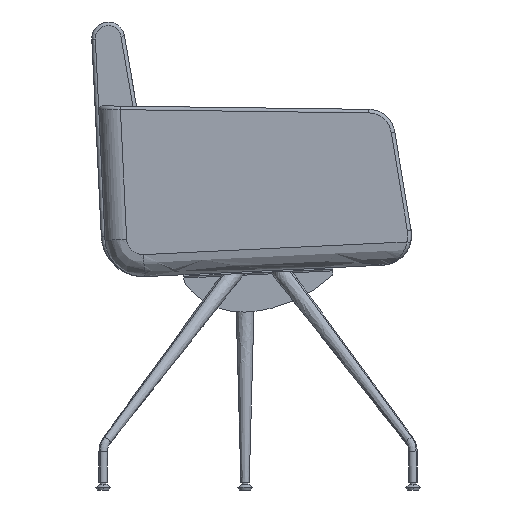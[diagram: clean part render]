
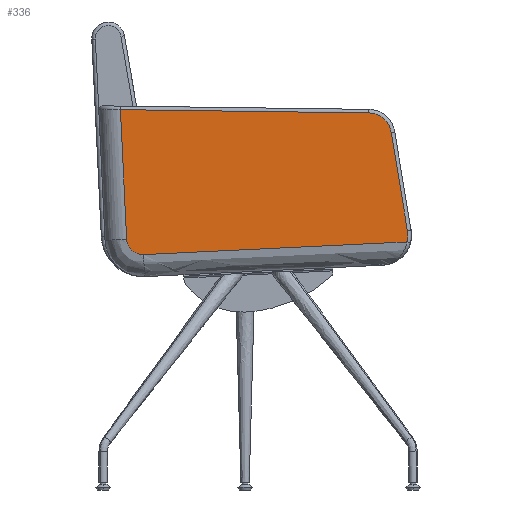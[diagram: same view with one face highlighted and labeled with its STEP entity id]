
A CAD part, left-side view. The second image highlights one B-rep face of the part: STEP entity #336.
In plain terms, the highlighted planar face has unit normal (-1, 0.019, 0).
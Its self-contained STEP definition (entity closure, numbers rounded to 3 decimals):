
#336=ADVANCED_FACE('',(#670),#4486,.T.);
#670=FACE_OUTER_BOUND('',#1007,.T.);
#1007=EDGE_LOOP('',(#2202,#2203,#2204,#2205,#2206,#2207,#2208));
#2202=ORIENTED_EDGE('',*,*,#3107,.T.);
#2203=ORIENTED_EDGE('',*,*,#3104,.T.);
#2204=ORIENTED_EDGE('',*,*,#3095,.T.);
#2205=ORIENTED_EDGE('',*,*,#3099,.T.);
#2206=ORIENTED_EDGE('',*,*,#3091,.T.);
#2207=ORIENTED_EDGE('',*,*,#3084,.F.);
#2208=ORIENTED_EDGE('',*,*,#3092,.F.);
#3084=EDGE_CURVE('',#4341,#4342,#3840,.T.);
#3091=EDGE_CURVE('',#4351,#4342,#3847,.T.);
#3092=EDGE_CURVE('',#4353,#4341,#3338,.T.);
#3095=EDGE_CURVE('',#4356,#4355,#3850,.T.);
#3099=EDGE_CURVE('',#4355,#4351,#3854,.T.);
#3104=EDGE_CURVE('',#4354,#4356,#3859,.T.);
#3107=EDGE_CURVE('',#4353,#4354,#3862,.T.);
#3338=B_SPLINE_CURVE_WITH_KNOTS('',1,(#10488,#10489),.UNSPECIFIED.,.F.,
 .F.,(2,2),(14.204,456.936),.UNSPECIFIED.);
#3840=(
BOUNDED_CURVE()
B_SPLINE_CURVE(3,(#10463,#10464,#10465,#10466,#10467,#10468),
 .UNSPECIFIED.,.F.,.F.)
B_SPLINE_CURVE_WITH_KNOTS((4,1,1,4),(0.574,16.302,
26.915,42.99),.UNSPECIFIED.)
CURVE()
GEOMETRIC_REPRESENTATION_ITEM()
RATIONAL_B_SPLINE_CURVE((1.,1.,1.,1.,1.,
1.))
REPRESENTATION_ITEM('')
);
#3847=(
BOUNDED_CURVE()
B_SPLINE_CURVE(1,(#10486,#10487),.UNSPECIFIED.,.F.,.F.)
B_SPLINE_CURVE_WITH_KNOTS((2,2),(8.235,225.966),
 .UNSPECIFIED.)
CURVE()
GEOMETRIC_REPRESENTATION_ITEM()
RATIONAL_B_SPLINE_CURVE((1.,1.))
REPRESENTATION_ITEM('')
);
#3850=(
BOUNDED_CURVE()
B_SPLINE_CURVE(3,(#10498,#10499,#10500,#10501,#10502),.UNSPECIFIED.,.F.,
 .F.)
B_SPLINE_CURVE_WITH_KNOTS((4,1,4),(0.019,27.333,54.402),
 .UNSPECIFIED.)
CURVE()
GEOMETRIC_REPRESENTATION_ITEM()
RATIONAL_B_SPLINE_CURVE((1.,1.,1.,1.,1.))
REPRESENTATION_ITEM('')
);
#3854=(
BOUNDED_CURVE()
B_SPLINE_CURVE(1,(#10511,#10512),.UNSPECIFIED.,.F.,.F.)
B_SPLINE_CURVE_WITH_KNOTS((2,2),(0.117,416.598),
 .UNSPECIFIED.)
CURVE()
GEOMETRIC_REPRESENTATION_ITEM()
RATIONAL_B_SPLINE_CURVE((1.,1.))
REPRESENTATION_ITEM('')
);
#3859=(
BOUNDED_CURVE()
B_SPLINE_CURVE(1,(#10532,#10533),.UNSPECIFIED.,.F.,.F.)
B_SPLINE_CURVE_WITH_KNOTS((2,2),(0.019,167.948),
 .UNSPECIFIED.)
CURVE()
GEOMETRIC_REPRESENTATION_ITEM()
RATIONAL_B_SPLINE_CURVE((1.,1.))
REPRESENTATION_ITEM('')
);
#3862=(
BOUNDED_CURVE()
B_SPLINE_CURVE(3,(#10541,#10542,#10543,#10544),.UNSPECIFIED.,.F.,.F.)
B_SPLINE_CURVE_WITH_KNOTS((4,4),(-1.65,16.592),
 .UNSPECIFIED.)
CURVE()
GEOMETRIC_REPRESENTATION_ITEM()
RATIONAL_B_SPLINE_CURVE((1.,1.,1.,1.))
REPRESENTATION_ITEM('')
);
#4341=VERTEX_POINT('',#10427);
#4342=VERTEX_POINT('',#10428);
#4351=VERTEX_POINT('',#10437);
#4353=VERTEX_POINT('',#10439);
#4354=VERTEX_POINT('',#10440);
#4355=VERTEX_POINT('',#10441);
#4356=VERTEX_POINT('',#10442);
#4486=PLANE('',#4900);
#4900=AXIS2_PLACEMENT_3D('',#10217,#4951,$);
#4951=DIRECTION('',(-1.,0.019,0.));
#10217=CARTESIAN_POINT('',(-1061.892,258.768,351.764));
#10427=CARTESIAN_POINT('',(-1063.189,192.279,394.941));
#10428=CARTESIAN_POINT('',(-1062.638,220.544,420.614));
#10437=CARTESIAN_POINT('',(-1062.434,231.,638.094));
#10439=CARTESIAN_POINT('',(-1071.808,-249.859,416.198));
#10440=CARTESIAN_POINT('',(-1071.824,-250.654,434.293));
#10441=CARTESIAN_POINT('',(-1070.551,-185.366,632.636));
#10442=CARTESIAN_POINT('',(-1071.291,-223.335,599.984));
#10463=CARTESIAN_POINT('',(-1063.189,192.279,394.941));
#10464=CARTESIAN_POINT('',(-1063.086,197.519,394.673));
#10465=CARTESIAN_POINT('',(-1062.914,206.388,396.904));
#10466=CARTESIAN_POINT('',(-1062.704,217.128,406.529));
#10467=CARTESIAN_POINT('',(-1062.642,220.304,415.256));
#10468=CARTESIAN_POINT('',(-1062.638,220.544,420.614));
#10486=CARTESIAN_POINT('',(-1062.434,231.,638.094));
#10487=CARTESIAN_POINT('',(-1062.638,220.544,420.614));
#10488=CARTESIAN_POINT('',(-1071.808,-249.859,416.198));
#10489=CARTESIAN_POINT('',(-1063.189,192.279,394.941));
#10498=CARTESIAN_POINT('',(-1071.291,-223.335,599.984));
#10499=CARTESIAN_POINT('',(-1071.263,-221.897,608.981));
#10500=CARTESIAN_POINT('',(-1071.077,-212.368,625.713));
#10501=CARTESIAN_POINT('',(-1070.727,-194.393,632.56));
#10502=CARTESIAN_POINT('',(-1070.551,-185.366,632.636));
#10511=CARTESIAN_POINT('',(-1070.551,-185.366,632.636));
#10512=CARTESIAN_POINT('',(-1062.434,231.,638.094));
#10532=CARTESIAN_POINT('',(-1071.824,-250.654,434.293));
#10533=CARTESIAN_POINT('',(-1071.291,-223.335,599.984));
#10541=CARTESIAN_POINT('',(-1071.808,-249.859,416.198));
#10542=CARTESIAN_POINT('',(-1071.838,-251.368,422.088));
#10543=CARTESIAN_POINT('',(-1071.843,-251.652,428.294));
#10544=CARTESIAN_POINT('',(-1071.824,-250.654,434.293));
